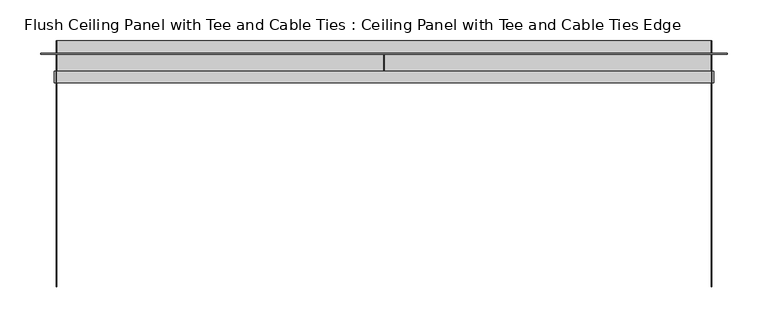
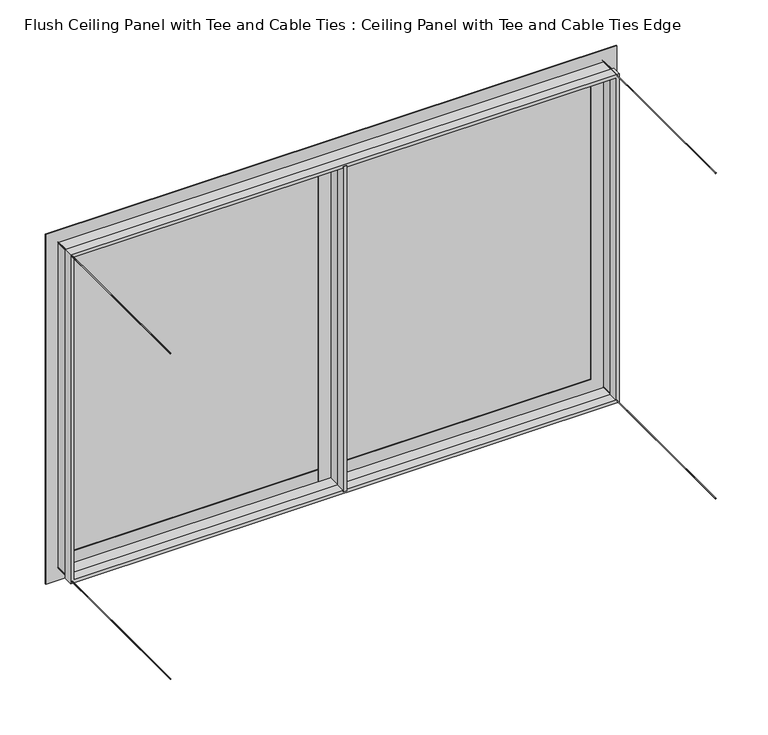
"""IFC4 building model written with IfcOpenShell, lengths in millimetres: plate geometry, Flush Ceiling Panel with Tee and Cable Ties : Ceiling Panel with Tee and Cable Ties Edge."""

from ifc_helpers import new_model, si_unit, point, frame, frame_2d, origin, origin_with_axes, place, context, project, spatial, polyline, circle_curve, trimmed, segment, composite_curve, outline, extrude, faceted_brep, source, transform, mapped, element, save


def flush_ceiling_panel_with_tee_and_cable_ties_ceiling_panel_26e405d2(model_context):
    return source(origin(), model_context, "Body", "SolidModel", [
        extrude(outline(composite_curve([segment(trimmed(circle_curve(frame_2d((505.0, 399.9999998)), 0.5), [point((505.0, 400.4999998))], [point((505.0, 399.4999998))], False, "CARTESIAN"), True, "CONTINUOUS"), segment(trimmed(circle_curve(frame_2d((505.0, 399.9999998)), 0.5), [point((505.0, 399.4999998))], [point((505.0, 400.4999998))], False, "CARTESIAN"), True, "CONTINUOUS")], self_intersect=False)), frame((0.0, -300.0, 0.0), z_axis=(0.0, 1.0, 0.0), x_axis=(0.0, 0.0, 1.0)), (0.0, 0.0, 1.0), 300.0),
        extrude(outline(composite_curve([segment(trimmed(circle_curve(frame_2d((505.0, -399.9999998)), 0.5), [point((505.0, -399.4999998))], [point((505.0, -400.4999998))], False, "CARTESIAN"), True, "CONTINUOUS"), segment(trimmed(circle_curve(frame_2d((505.0, -399.9999998)), 0.5), [point((505.0, -400.4999998))], [point((505.0, -399.4999998))], False, "CARTESIAN"), True, "CONTINUOUS")], self_intersect=False)), frame((0.0, -300.0, 0.0), z_axis=(0.0, 1.0, 0.0), x_axis=(0.0, 0.0, 1.0)), (0.0, 0.0, 1.0), 300.0),
        extrude(outline(composite_curve([segment(trimmed(circle_curve(frame_2d((0.0, 399.9999998)), 0.5), [point((0.0, 400.4999998))], [point((0.0, 399.4999998))], False, "CARTESIAN"), True, "CONTINUOUS"), segment(trimmed(circle_curve(frame_2d((0.0, 399.9999998)), 0.5), [point((0.0, 399.4999998))], [point((0.0, 400.4999998))], False, "CARTESIAN"), True, "CONTINUOUS")], self_intersect=False)), frame((0.0, -300.0, 0.0), z_axis=(0.0, 1.0, 0.0), x_axis=(0.0, 0.0, 1.0)), (0.0, 0.0, 1.0), 300.0),
        extrude(outline(composite_curve([segment(trimmed(circle_curve(frame_2d((0.0, -399.9999998)), 0.5), [point((0.0, -399.4999998))], [point((0.0, -400.4999998))], False, "CARTESIAN"), True, "CONTINUOUS"), segment(trimmed(circle_curve(frame_2d((0.0, -399.9999998)), 0.5), [point((0.0, -400.4999998))], [point((0.0, -399.4999998))], False, "CARTESIAN"), True, "CONTINUOUS")], self_intersect=False)), frame((0.0, -300.0, 0.0), z_axis=(0.0, 1.0, 0.0), x_axis=(0.0, 0.0, 1.0)), (0.0, 0.0, 1.0), 300.0),
        extrude(outline(polyline([(19.0, -15.0), (19.0, -16.0), (0.5, -16.0), (0.5, -37.0), (2.5, -37.0), (2.5, -51.0), (-2.5, -51.0), (-2.5, -37.0), (-0.5, -37.0), (-0.5, -16.0), (-19.0, -16.0), (-19.0, -15.0), (19.0, -15.0)])), origin_with_axes(), (0.0, 0.0, 1.0), 505.0),
        faceted_brep([(380.9999998, -16.0, 486.0), (380.9999998, -15.0, 486.0), (380.9999998, -15.0, 19.0), (380.9999998, -16.0, 19.0), (399.4999998, -37.0, 504.5), (399.4999998, -16.0, 504.5), (399.4999998, -16.0, 0.5), (399.4999998, -37.0, 0.5), (397.4999998, -51.0, 502.5), (397.4999998, -37.0, 502.5), (397.4999998, -37.0, 2.5), (397.4999998, -51.0, 2.5), (402.4999998, -37.0, 507.5), (402.4999998, -51.0, 507.5), (402.4999998, -51.0, -2.5), (402.4999998, -37.0, -2.5), (400.4999998, -16.0, 505.5), (400.4999998, -37.0, 505.5), (400.4999998, -37.0, -0.5), (400.4999998, -16.0, -0.5), (418.9999998, -15.0, 524.0), (418.9999998, -16.0, 524.0), (418.9999998, -16.0, -19.0), (418.9999998, -15.0, -19.0), (-380.9999998, -15.0, 19.0), (-380.9999998, -16.0, 19.0), (-399.4999998, -16.0, 0.5), (-399.4999998, -37.0, 0.5), (-397.4999998, -37.0, 2.5), (-397.4999998, -51.0, 2.5), (-402.4999998, -51.0, -2.5), (-402.4999998, -37.0, -2.5), (-400.4999998, -37.0, -0.5), (-400.4999998, -16.0, -0.5), (-418.9999998, -16.0, -19.0), (-418.9999998, -15.0, -19.0), (-380.9999998, -15.0, 486.0), (-380.9999998, -16.0, 486.0), (-399.4999998, -16.0, 504.5), (-399.4999998, -37.0, 504.5), (-397.4999998, -37.0, 502.5), (-397.4999998, -51.0, 502.5), (-402.4999998, -51.0, 507.5), (-402.4999998, -37.0, 507.5), (-400.4999998, -37.0, 505.5), (-400.4999998, -16.0, 505.5), (-418.9999998, -16.0, 524.0), (-418.9999998, -15.0, 524.0)], [[[0, 1, 2, 3]], [[4, 5, 6, 7]], [[8, 9, 10, 11]], [[12, 13, 14, 15]], [[16, 17, 18, 19]], [[20, 21, 22, 23]], [[3, 2, 24, 25]], [[7, 6, 26, 27]], [[11, 10, 28, 29]], [[15, 14, 30, 31]], [[19, 18, 32, 33]], [[23, 22, 34, 35]], [[25, 24, 36, 37]], [[27, 26, 38, 39]], [[29, 28, 40, 41]], [[31, 30, 42, 43]], [[33, 32, 44, 45]], [[35, 34, 46, 47]], [[23, 35, 47, 20], [1, 36, 24, 2]], [[37, 36, 1, 0]], [[5, 38, 26, 6], [3, 25, 37, 0]], [[39, 38, 5, 4]], [[7, 27, 39, 4], [9, 40, 28, 10]], [[41, 40, 9, 8]], [[13, 42, 30, 14], [11, 29, 41, 8]], [[43, 42, 13, 12]], [[15, 31, 43, 12], [17, 44, 32, 18]], [[45, 44, 17, 16]], [[21, 46, 34, 22], [19, 33, 45, 16]], [[47, 46, 21, 20]]]),
        extrude(outline(polyline([(399.9999998, -15.0), (-399.9999998, -15.0), (-399.9999998, 0.0), (399.9999998, 0.0), (399.9999998, -15.0)])), origin_with_axes(), (0.0, 0.0, 1.0), 505.0),
    ])


if __name__ == "__main__":
    model = new_model("IFC4")
    model_context = context("Model", 3, world=origin())
    ifc_project = project(units=[si_unit("LENGTHUNIT", "METRE", prefix="MILLI")], contexts=[model_context])
    site = spatial("IfcSite", under=ifc_project)
    building = spatial("IfcBuilding", under=site)
    placement = place(None, origin())
    flush_ceiling_panel_with_tee_and_cable_ties_ceiling_panel_shape = flush_ceiling_panel_with_tee_and_cable_ties_ceiling_panel_26e405d2(model_context)
    element("IfcPlate", 1, ObjectType="Flush Ceiling Panel with Tee and Cable Ties : Ceiling Panel with Tee and Cable Ties Edge", at=placement, inside=building, context=model_context, shape_type="MappedRepresentation", body=[
        mapped(flush_ceiling_panel_with_tee_and_cable_ties_ceiling_panel_shape, transform((0.0, 0.0, 0.0), x_axis=(1.0, 0.0, 0.0), y_axis=(0.0, 1.0, 0.0), z_axis=(0.0, 0.0, 1.0))),
    ])
    save(model, "model.ifc")
